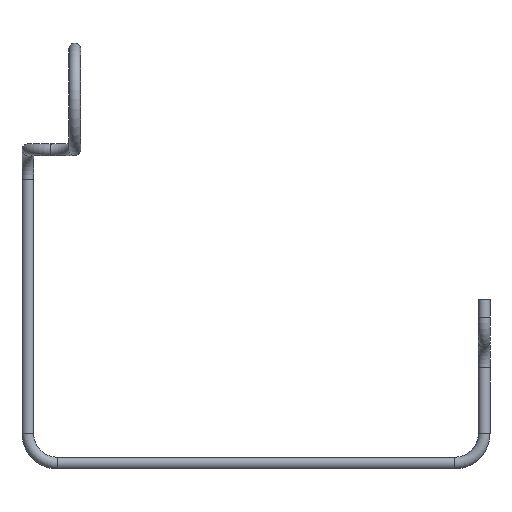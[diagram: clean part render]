
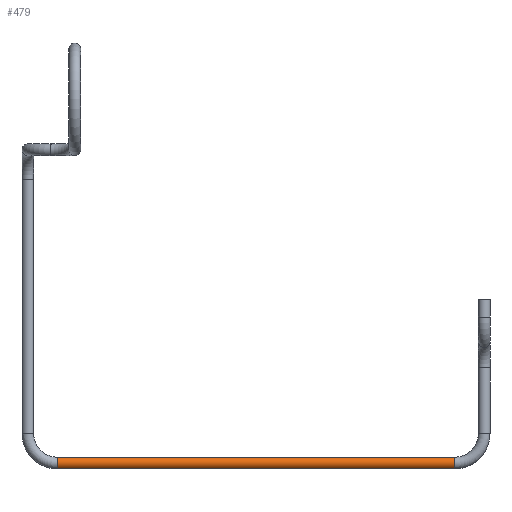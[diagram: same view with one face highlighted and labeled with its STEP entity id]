
A CAD part, left-side view. The second image highlights one B-rep face of the part: STEP entity #479.
In plain terms, the highlighted cylindrical face has radius 1 mm (diameter 2 mm), a full revolution.
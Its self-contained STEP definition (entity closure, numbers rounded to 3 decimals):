
#413 = TOROIDAL_SURFACE('',#414,5.,1.);
#414 = AXIS2_PLACEMENT_3D('',#415,#416,#417);
#415 = CARTESIAN_POINT('',(-220.,513.,156.));
#416 = DIRECTION('',(-1.,0.,-0.));
#417 = DIRECTION('',(0.,1.,0.));
#430 = VERTEX_POINT('',#431);
#431 = CARTESIAN_POINT('',(-219.,513.,151.));
#452 = EDGE_CURVE('',#430,#430,#453,.T.);
#453 = SURFACE_CURVE('',#454,(#459,#466),.PCURVE_S1.);
#454 = CIRCLE('',#455,1.);
#455 = AXIS2_PLACEMENT_3D('',#456,#457,#458);
#456 = CARTESIAN_POINT('',(-220.,513.,151.));
#457 = DIRECTION('',(0.,1.,0.));
#458 = DIRECTION('',(0.,0.,-1.));
#459 = PCURVE('',#413,#460);
#460 = DEFINITIONAL_REPRESENTATION('',(#461),#465);
#461 = LINE('',#462,#463);
#462 = CARTESIAN_POINT('',(1.571,0.));
#463 = VECTOR('',#464,1.);
#464 = DIRECTION('',(0.,1.));
#465 = ( GEOMETRIC_REPRESENTATION_CONTEXT(2) 
PARAMETRIC_REPRESENTATION_CONTEXT() REPRESENTATION_CONTEXT('2D SPACE',''
  ) );
#466 = PCURVE('',#467,#472);
#467 = CYLINDRICAL_SURFACE('',#468,1.);
#468 = AXIS2_PLACEMENT_3D('',#469,#470,#471);
#469 = CARTESIAN_POINT('',(-220.,513.,151.));
#470 = DIRECTION('',(0.,-1.,0.));
#471 = DIRECTION('',(1.,0.,0.));
#472 = DEFINITIONAL_REPRESENTATION('',(#473),#476);
#473 = B_SPLINE_CURVE_WITH_KNOTS('',1,(#474,#475),.UNSPECIFIED.,.F.,.F.,
  (2,2),(4.712,10.996),.PIECEWISE_BEZIER_KNOTS.);
#474 = CARTESIAN_POINT('',(6.283,0.));
#475 = CARTESIAN_POINT('',(0.,0.));
#476 = ( GEOMETRIC_REPRESENTATION_CONTEXT(2) 
PARAMETRIC_REPRESENTATION_CONTEXT() REPRESENTATION_CONTEXT('2D SPACE',''
  ) );
#479 = ADVANCED_FACE('',(#480),#467,.T.);
#480 = FACE_BOUND('',#481,.T.);
#481 = EDGE_LOOP('',(#482,#504,#530,#531));
#482 = ORIENTED_EDGE('',*,*,#483,.T.);
#483 = EDGE_CURVE('',#430,#484,#486,.T.);
#484 = VERTEX_POINT('',#485);
#485 = CARTESIAN_POINT('',(-219.,445.215,151.));
#486 = SEAM_CURVE('',#487,(#491,#497),.PCURVE_S1.);
#487 = LINE('',#488,#489);
#488 = CARTESIAN_POINT('',(-219.,513.,151.));
#489 = VECTOR('',#490,1.);
#490 = DIRECTION('',(0.,-1.,0.));
#491 = PCURVE('',#467,#492);
#492 = DEFINITIONAL_REPRESENTATION('',(#493),#496);
#493 = B_SPLINE_CURVE_WITH_KNOTS('',1,(#494,#495),.UNSPECIFIED.,.F.,.F.,
  (2,2),(0.,67.785),.PIECEWISE_BEZIER_KNOTS.);
#494 = CARTESIAN_POINT('',(6.283,0.));
#495 = CARTESIAN_POINT('',(6.283,67.785));
#496 = ( GEOMETRIC_REPRESENTATION_CONTEXT(2) 
PARAMETRIC_REPRESENTATION_CONTEXT() REPRESENTATION_CONTEXT('2D SPACE',''
  ) );
#497 = PCURVE('',#467,#498);
#498 = DEFINITIONAL_REPRESENTATION('',(#499),#503);
#499 = LINE('',#500,#501);
#500 = CARTESIAN_POINT('',(0.,0.));
#501 = VECTOR('',#502,1.);
#502 = DIRECTION('',(0.,1.));
#503 = ( GEOMETRIC_REPRESENTATION_CONTEXT(2) 
PARAMETRIC_REPRESENTATION_CONTEXT() REPRESENTATION_CONTEXT('2D SPACE',''
  ) );
#504 = ORIENTED_EDGE('',*,*,#505,.F.);
#505 = EDGE_CURVE('',#484,#484,#506,.T.);
#506 = SURFACE_CURVE('',#507,(#512,#519),.PCURVE_S1.);
#507 = CIRCLE('',#508,1.);
#508 = AXIS2_PLACEMENT_3D('',#509,#510,#511);
#509 = CARTESIAN_POINT('',(-220.,445.215,151.));
#510 = DIRECTION('',(0.,-1.,0.));
#511 = DIRECTION('',(1.,0.,0.));
#512 = PCURVE('',#467,#513);
#513 = DEFINITIONAL_REPRESENTATION('',(#514),#518);
#514 = LINE('',#515,#516);
#515 = CARTESIAN_POINT('',(0.,67.785));
#516 = VECTOR('',#517,1.);
#517 = DIRECTION('',(1.,0.));
#518 = ( GEOMETRIC_REPRESENTATION_CONTEXT(2) 
PARAMETRIC_REPRESENTATION_CONTEXT() REPRESENTATION_CONTEXT('2D SPACE',''
  ) );
#519 = PCURVE('',#520,#525);
#520 = TOROIDAL_SURFACE('',#521,5.,1.);
#521 = AXIS2_PLACEMENT_3D('',#522,#523,#524);
#522 = CARTESIAN_POINT('',(-220.,445.215,156.));
#523 = DIRECTION('',(-1.,-0.,-0.));
#524 = DIRECTION('',(0.,0.,-1.));
#525 = DEFINITIONAL_REPRESENTATION('',(#526),#529);
#526 = B_SPLINE_CURVE_WITH_KNOTS('',1,(#527,#528),.UNSPECIFIED.,.F.,.F.,
  (2,2),(0.,6.283),.PIECEWISE_BEZIER_KNOTS.);
#527 = CARTESIAN_POINT('',(0.,10.996));
#528 = CARTESIAN_POINT('',(0.,4.712));
#529 = ( GEOMETRIC_REPRESENTATION_CONTEXT(2) 
PARAMETRIC_REPRESENTATION_CONTEXT() REPRESENTATION_CONTEXT('2D SPACE',''
  ) );
#530 = ORIENTED_EDGE('',*,*,#483,.F.);
#531 = ORIENTED_EDGE('',*,*,#452,.F.);
